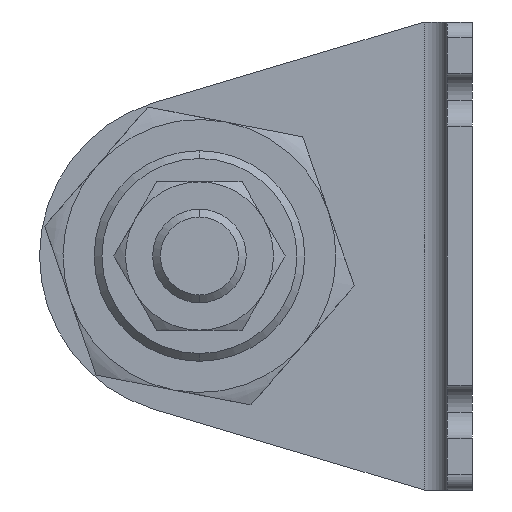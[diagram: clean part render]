
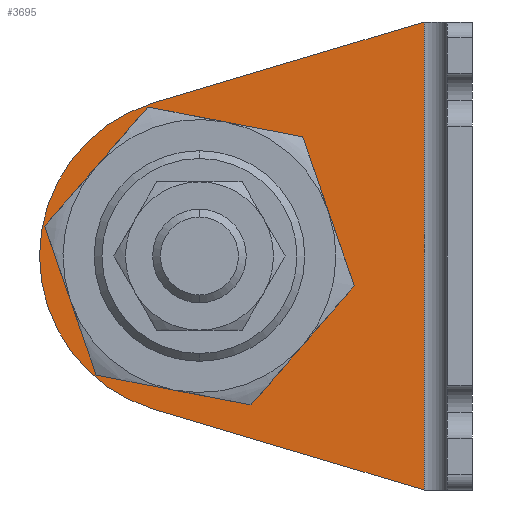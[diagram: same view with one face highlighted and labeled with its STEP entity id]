
A CAD part, left-side view. The second image highlights one B-rep face of the part: STEP entity #3695.
In plain terms, the highlighted planar face has unit normal (-1, 0, 0) as drawn and (1, 0, 0) by its records, which use the part's own axes.
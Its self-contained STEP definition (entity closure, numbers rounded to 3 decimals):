
#85 = EDGE_CURVE ( 'NONE', #4078, #819, #3729, .T. ) ;
#182 = DIRECTION ( 'NONE',  ( 1., 0., 0. ) ) ;
#260 = LINE ( 'NONE', #3869, #1820 ) ;
#285 = FACE_OUTER_BOUND ( 'NONE', #2812, .T. ) ;
#404 = CARTESIAN_POINT ( 'NONE',  ( 3.2, 35., -30. ) ) ;
#632 = ORIENTED_EDGE ( 'NONE', *, *, #3790, .T. ) ;
#685 = VERTEX_POINT ( 'NONE', #3371 ) ;
#694 = LINE ( 'NONE', #3247, #869 ) ;
#725 = EDGE_CURVE ( 'NONE', #3517, #685, #3645, .T. ) ;
#788 = DIRECTION ( 'NONE',  ( 1., 0., 0. ) ) ;
#819 = VERTEX_POINT ( 'NONE', #1048 ) ;
#827 = EDGE_CURVE ( 'NONE', #3517, #4361, #260, .T. ) ;
#869 = VECTOR ( 'NONE', #1848, 1000. ) ;
#886 = ORIENTED_EDGE ( 'NONE', *, *, #4471, .T. ) ;
#954 = CARTESIAN_POINT ( 'NONE',  ( 3.2, 55.5, -30. ) ) ;
#961 = ORIENTED_EDGE ( 'NONE', *, *, #827, .F. ) ;
#1048 = CARTESIAN_POINT ( 'NONE',  ( 3.2, 48.5, -30. ) ) ;
#1253 = CARTESIAN_POINT ( 'NONE',  ( 3.2, 40.868, -10.358 ) ) ;
#1313 = DIRECTION ( 'NONE',  ( 0., 0., -1. ) ) ;
#1385 = AXIS2_PLACEMENT_3D ( 'NONE', #3475, #4490, #1651 ) ;
#1404 = DIRECTION ( 'NONE',  ( 1., 0., 0. ) ) ;
#1409 = EDGE_CURVE ( 'NONE', #819, #4078, #4244, .T. ) ;
#1651 = DIRECTION ( 'NONE',  ( 0., 1., 0. ) ) ;
#1673 = CIRCLE ( 'NONE', #1385, 20.5 ) ;
#1682 = VERTEX_POINT ( 'NONE', #954 ) ;
#1756 = CARTESIAN_POINT ( 'NONE',  ( 3.2, 6.2, -60. ) ) ;
#1820 = VECTOR ( 'NONE', #1936, 1000. ) ;
#1841 = AXIS2_PLACEMENT_3D ( 'NONE', #2579, #4021, #2649 ) ;
#1848 = DIRECTION ( 'NONE',  ( 0., 0.958, 0.286 ) ) ;
#1877 = AXIS2_PLACEMENT_3D ( 'NONE', #3971, #788, #4111 ) ;
#1936 = DIRECTION ( 'NONE',  ( 0., 0.958, -0.286 ) ) ;
#2239 = ORIENTED_EDGE ( 'NONE', *, *, #1409, .F. ) ;
#2393 = AXIS2_PLACEMENT_3D ( 'NONE', #3946, #1404, #3184 ) ;
#2579 = CARTESIAN_POINT ( 'NONE',  ( 3.2, 35., -30. ) ) ;
#2649 = DIRECTION ( 'NONE',  ( 0., 1., 0. ) ) ;
#2812 = EDGE_LOOP ( 'NONE', ( #3925, #632, #886, #961, #3433 ) ) ;
#2915 = VERTEX_POINT ( 'NONE', #3508 ) ;
#2945 = PLANE ( 'NONE',  #1877 ) ;
#3029 = EDGE_CURVE ( 'NONE', #685, #2915, #694, .T. ) ;
#3184 = DIRECTION ( 'NONE',  ( 0., 1., 0. ) ) ;
#3205 = FACE_BOUND ( 'NONE', #3296, .T. ) ;
#3235 = AXIS2_PLACEMENT_3D ( 'NONE', #404, #182, #3528 ) ;
#3247 = CARTESIAN_POINT ( 'NONE',  ( 3.2, 3.446, -60.823 ) ) ;
#3296 = EDGE_LOOP ( 'NONE', ( #2239, #3504 ) ) ;
#3371 = CARTESIAN_POINT ( 'NONE',  ( 3.2, 6.2, -60. ) ) ;
#3433 = ORIENTED_EDGE ( 'NONE', *, *, #725, .T. ) ;
#3475 = CARTESIAN_POINT ( 'NONE',  ( 3.2, 35., -30. ) ) ;
#3504 = ORIENTED_EDGE ( 'NONE', *, *, #85, .F. ) ;
#3508 = CARTESIAN_POINT ( 'NONE',  ( 3.2, 40.868, -49.642 ) ) ;
#3517 = VERTEX_POINT ( 'NONE', #4074 ) ;
#3528 = DIRECTION ( 'NONE',  ( 0., 1., 0. ) ) ;
#3645 = LINE ( 'NONE', #1756, #3952 ) ;
#3695 = ADVANCED_FACE ( 'NONE', ( #3205, #285 ), #2945, .T. ) ;
#3729 = CIRCLE ( 'NONE', #2393, 13.5 ) ;
#3790 = EDGE_CURVE ( 'NONE', #2915, #1682, #1673, .T. ) ;
#3806 = CARTESIAN_POINT ( 'NONE',  ( 3.2, 21.5, -30. ) ) ;
#3869 = CARTESIAN_POINT ( 'NONE',  ( 3.2, 19.903, -4.094 ) ) ;
#3925 = ORIENTED_EDGE ( 'NONE', *, *, #3029, .T. ) ;
#3946 = CARTESIAN_POINT ( 'NONE',  ( 3.2, 35., -30. ) ) ;
#3952 = VECTOR ( 'NONE', #1313, 1000. ) ;
#3971 = CARTESIAN_POINT ( 'NONE',  ( 3.2, 3.2, -60. ) ) ;
#4021 = DIRECTION ( 'NONE',  ( 1., 0., 0. ) ) ;
#4074 = CARTESIAN_POINT ( 'NONE',  ( 3.2, 6.2, 0. ) ) ;
#4078 = VERTEX_POINT ( 'NONE', #3806 ) ;
#4111 = DIRECTION ( 'NONE',  ( 0., 1., 0. ) ) ;
#4244 = CIRCLE ( 'NONE', #1841, 13.5 ) ;
#4361 = VERTEX_POINT ( 'NONE', #1253 ) ;
#4425 = CIRCLE ( 'NONE', #3235, 20.5 ) ;
#4471 = EDGE_CURVE ( 'NONE', #1682, #4361, #4425, .T. ) ;
#4490 = DIRECTION ( 'NONE',  ( 1., 0., 0. ) ) ;
